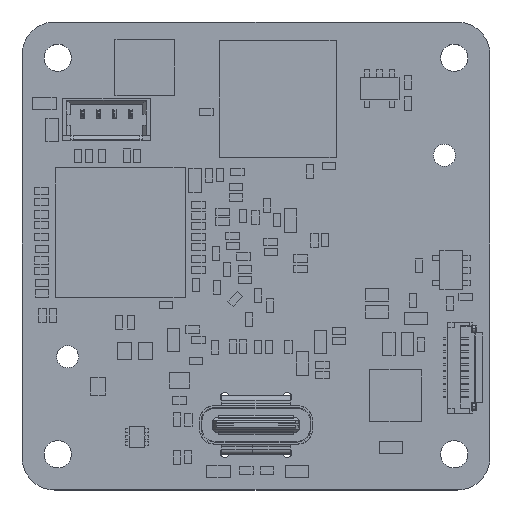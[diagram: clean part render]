
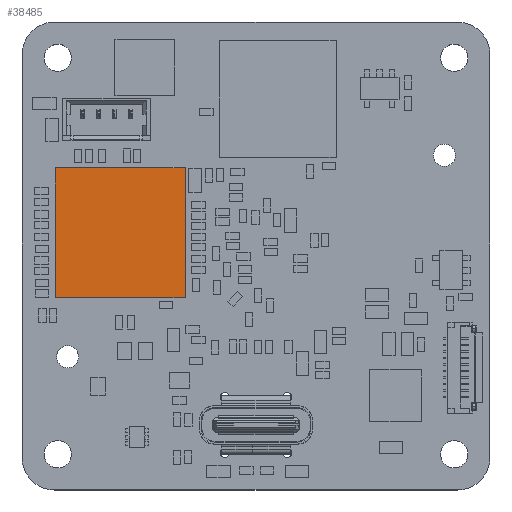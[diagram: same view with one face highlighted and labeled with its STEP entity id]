
A CAD part, top view. The second image highlights one B-rep face of the part: STEP entity #38485.
In plain terms, the highlighted planar face has unit normal (0, 0, 1).
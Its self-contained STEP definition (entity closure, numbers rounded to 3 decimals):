
#38356 = VERTEX_POINT('',#38357);
#38357 = CARTESIAN_POINT('',(12.544,14.78,1.2)
  );
#38363 = EDGE_CURVE('',#38356,#38364,#38366,.T.);
#38364 = VERTEX_POINT('',#38365);
#38365 = CARTESIAN_POINT('',(12.544,24.78,1.2)
  );
#38366 = LINE('',#38367,#38368);
#38367 = CARTESIAN_POINT('',(12.544,14.78,1.2)
  );
#38368 = VECTOR('',#38369,1.);
#38369 = DIRECTION('',(0.,1.,0.));
#38394 = EDGE_CURVE('',#38364,#38395,#38397,.T.);
#38395 = VERTEX_POINT('',#38396);
#38396 = CARTESIAN_POINT('',(2.544,24.78,1.2)
  );
#38397 = LINE('',#38398,#38399);
#38398 = CARTESIAN_POINT('',(12.544,24.78,1.2)
  );
#38399 = VECTOR('',#38400,1.);
#38400 = DIRECTION('',(-1.,0.,0.));
#38425 = EDGE_CURVE('',#38395,#38426,#38428,.T.);
#38426 = VERTEX_POINT('',#38427);
#38427 = CARTESIAN_POINT('',(2.544,14.78,1.2)
  );
#38428 = LINE('',#38429,#38430);
#38429 = CARTESIAN_POINT('',(2.544,24.78,1.2)
  );
#38430 = VECTOR('',#38431,1.);
#38431 = DIRECTION('',(0.,-1.,0.));
#38456 = EDGE_CURVE('',#38426,#38356,#38457,.T.);
#38457 = LINE('',#38458,#38459);
#38458 = CARTESIAN_POINT('',(2.544,14.78,1.2)
  );
#38459 = VECTOR('',#38460,1.);
#38460 = DIRECTION('',(1.,0.,0.));
#38485 = ADVANCED_FACE('',(#38486),#38492,.F.);
#38486 = FACE_BOUND('',#38487,.T.);
#38487 = EDGE_LOOP('',(#38488,#38489,#38490,#38491));
#38488 = ORIENTED_EDGE('',*,*,#38363,.T.);
#38489 = ORIENTED_EDGE('',*,*,#38394,.T.);
#38490 = ORIENTED_EDGE('',*,*,#38425,.T.);
#38491 = ORIENTED_EDGE('',*,*,#38456,.T.);
#38492 = PLANE('',#38493);
#38493 = AXIS2_PLACEMENT_3D('',#38494,#38495,#38496);
#38494 = CARTESIAN_POINT('',(12.544,14.78,1.2)
  );
#38495 = DIRECTION('',(0.,0.,-1.));
#38496 = DIRECTION('',(-1.,0.,0.));
